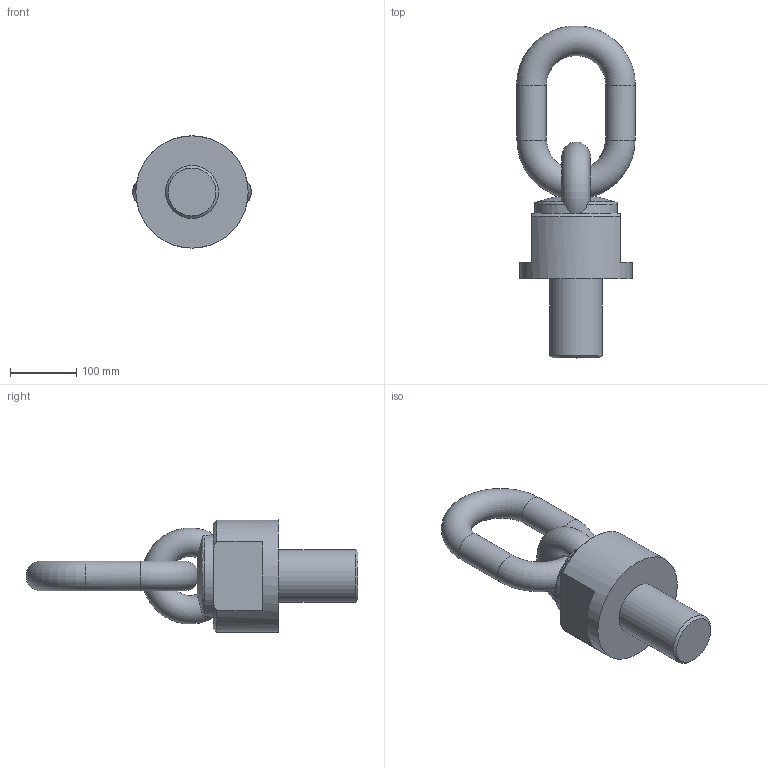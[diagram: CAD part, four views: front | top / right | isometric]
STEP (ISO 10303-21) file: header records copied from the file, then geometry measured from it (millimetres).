
FILE_DESCRIPTION( ( 'STEP AP203' ), '1' );
FILE_NAME( 'p:/temp/worker_47/temp/app_41_0201906271659164793328910e898ce_000000_00_00_000000/format_2/C80030080120.stp', '2019-06-27T14:59:17', ( '' ), ( '' ), ' ', 'PARTsolutions', ' ' );
FILE_SCHEMA( ( 'CONFIG_CONTROL_DESIGN' ) );
Length unit declared in the file: millimetre
Products named in the file (1): _C80030080120
Bounding box: 180 x 502.72 x 170 mm (x, y, z)
Volume: 4135130.2 mm3; surface area: 236249.4 mm2
Topology: 1 solids, 1 shells, 28 faces, 70 edges, 44 vertices
Faces by surface type: plane 12, cylinder 6, torus 5, cone 5
Full cylindrical faces by diameter (mm): 45 x2, 80 x1, 170 x1
Entity records: 1294 total; most frequent: CARTESIAN_POINT 644, DIRECTION 122, ORIENTED_EDGE 116, EDGE_CURVE 58, AXIS2_PLACEMENT_3D 57, EDGE_LOOP 42, VERTEX_POINT 41, FACE_OUTER_BOUND 35
